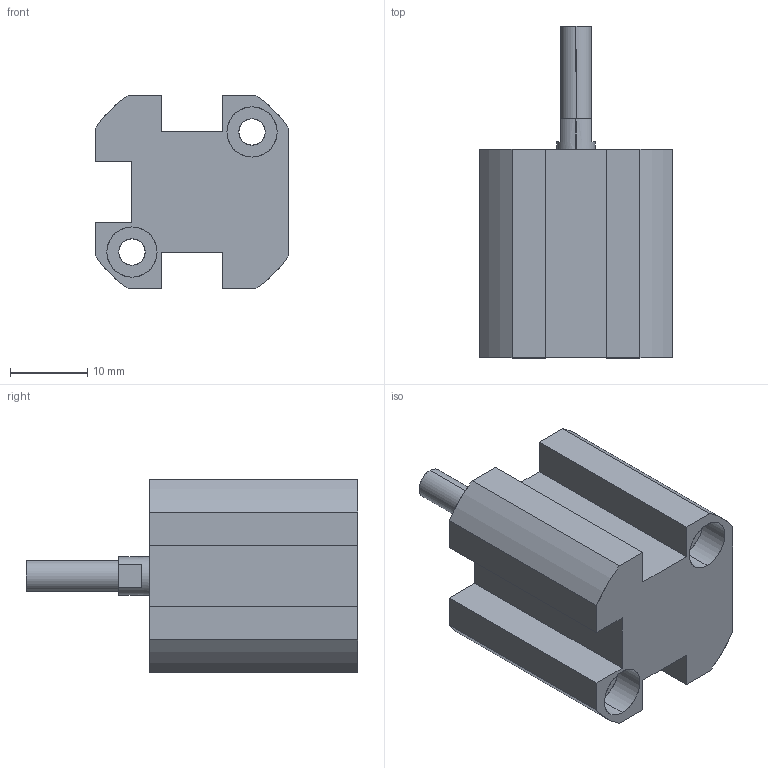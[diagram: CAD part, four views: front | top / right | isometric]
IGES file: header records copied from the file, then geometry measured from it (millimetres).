
Start section: SolidWorks IGES file using analytic representation for surfaces
Global section: file name: C:\Users\Toshiba\Desktop\XC#M2-10-10.IGS; native system: SolidWorks 2014; preprocessor: SolidWorks 2014; author: Toshiba; date: 160523.164154; units: millimetre
Bounding box: 25 x 43 x 25 mm (x, y, z)
Surface area: 5548.5 mm2 (no closed solid volume)
Topology: 0 solids, 0 shells, 77 faces, 1217 edges, 1213 vertices
Faces by surface type: revolution 43, bspline 34
